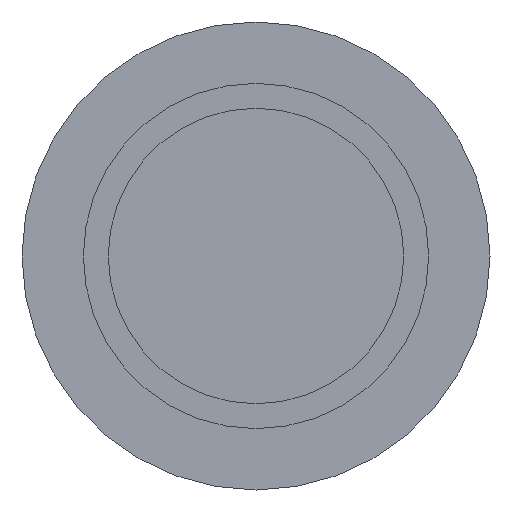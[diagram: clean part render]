
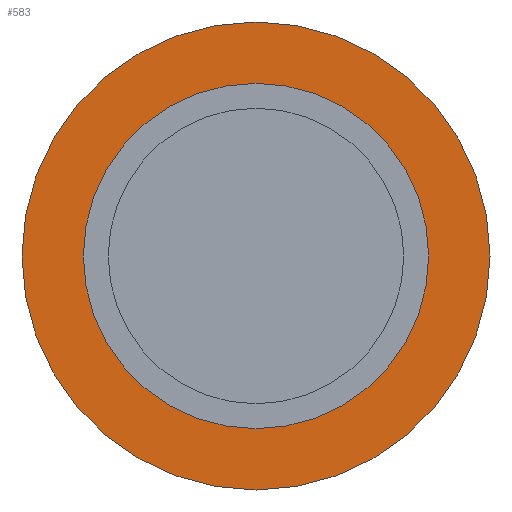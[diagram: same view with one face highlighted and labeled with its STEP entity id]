
A CAD part, front view. The second image highlights one B-rep face of the part: STEP entity #583.
In plain terms, the highlighted planar face has unit normal (0, -1, 0).
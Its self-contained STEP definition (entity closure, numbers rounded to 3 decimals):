
#11 = ORIENTED_EDGE ( 'NONE', *, *, #516, .T. ) ;
#19 = DIRECTION ( 'NONE',  ( 0., -1., 0. ) ) ;
#22 = EDGE_LOOP ( 'NONE', ( #76, #141 ) ) ;
#31 = CIRCLE ( 'NONE', #320, 47.5 ) ;
#38 = DIRECTION ( 'NONE',  ( 0., 0., 1. ) ) ;
#69 = CARTESIAN_POINT ( 'NONE',  ( 0., 0., 0. ) ) ;
#76 = ORIENTED_EDGE ( 'NONE', *, *, #121, .F. ) ;
#79 = EDGE_CURVE ( 'NONE', #135, #176, #597, .T. ) ;
#88 = DIRECTION ( 'NONE',  ( 0., 1., 0. ) ) ;
#94 = VERTEX_POINT ( 'NONE', #230 ) ;
#105 = CIRCLE ( 'NONE', #258, 35.05 ) ;
#118 = DIRECTION ( 'NONE',  ( 0., 0., -1. ) ) ;
#121 = EDGE_CURVE ( 'NONE', #176, #135, #105, .T. ) ;
#135 = VERTEX_POINT ( 'NONE', #566 ) ;
#136 = FACE_OUTER_BOUND ( 'NONE', #420, .T. ) ;
#141 = ORIENTED_EDGE ( 'NONE', *, *, #79, .F. ) ;
#155 = CARTESIAN_POINT ( 'NONE',  ( 0., 0., -35.05 ) ) ;
#176 = VERTEX_POINT ( 'NONE', #155 ) ;
#191 = CIRCLE ( 'NONE', #300, 47.5 ) ;
#230 = CARTESIAN_POINT ( 'NONE',  ( 0., 0., -47.5 ) ) ;
#238 = DIRECTION ( 'NONE',  ( 0., 0., -1. ) ) ;
#241 = DIRECTION ( 'NONE',  ( 0., -1., 0. ) ) ;
#246 = EDGE_CURVE ( 'NONE', #571, #94, #31, .T. ) ;
#258 = AXIS2_PLACEMENT_3D ( 'NONE', #484, #241, #238 ) ;
#269 = DIRECTION ( 'NONE',  ( 0., -1., 0. ) ) ;
#273 = DIRECTION ( 'NONE',  ( 0., 0., -1. ) ) ;
#276 = DIRECTION ( 'NONE',  ( 0., 0., -1. ) ) ;
#298 = AXIS2_PLACEMENT_3D ( 'NONE', #556, #608, #276 ) ;
#300 = AXIS2_PLACEMENT_3D ( 'NONE', #324, #269, #273 ) ;
#320 = AXIS2_PLACEMENT_3D ( 'NONE', #69, #19, #118 ) ;
#321 = CARTESIAN_POINT ( 'NONE',  ( 0., 0., 47.5 ) ) ;
#324 = CARTESIAN_POINT ( 'NONE',  ( 0., 0., 0. ) ) ;
#417 = ORIENTED_EDGE ( 'NONE', *, *, #246, .T. ) ;
#419 = FACE_BOUND ( 'NONE', #22, .T. ) ;
#420 = EDGE_LOOP ( 'NONE', ( #11, #417 ) ) ;
#484 = CARTESIAN_POINT ( 'NONE',  ( 0., 0., 0. ) ) ;
#508 = CARTESIAN_POINT ( 'NONE',  ( 0., 0., 47.5 ) ) ;
#509 = PLANE ( 'NONE',  #533 ) ;
#516 = EDGE_CURVE ( 'NONE', #94, #571, #191, .T. ) ;
#533 = AXIS2_PLACEMENT_3D ( 'NONE', #508, #88, #38 ) ;
#556 = CARTESIAN_POINT ( 'NONE',  ( 0., 0., 0. ) ) ;
#566 = CARTESIAN_POINT ( 'NONE',  ( 0., 0., 35.05 ) ) ;
#571 = VERTEX_POINT ( 'NONE', #321 ) ;
#583 = ADVANCED_FACE ( 'NONE', ( #419, #136 ), #509, .F. ) ;
#597 = CIRCLE ( 'NONE', #298, 35.05 ) ;
#608 = DIRECTION ( 'NONE',  ( 0., -1., 0. ) ) ;
